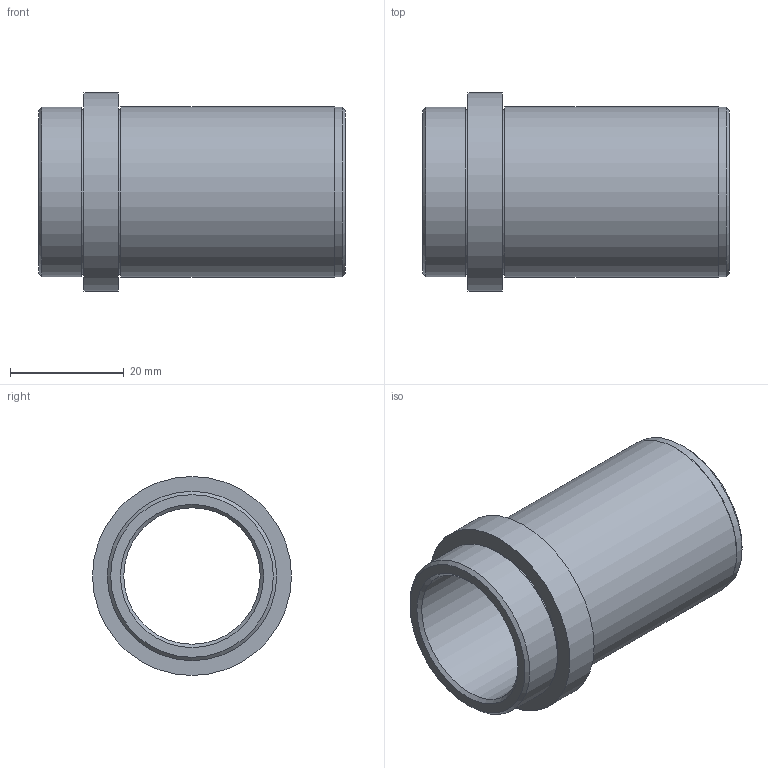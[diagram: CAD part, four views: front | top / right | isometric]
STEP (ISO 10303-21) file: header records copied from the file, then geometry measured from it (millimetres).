
FILE_DESCRIPTION(/* description */ ('Impex Ready, www.impex-ready.pl'),/* implementation_level */ '2;1');
FILE_NAME(/* name */ 'C:\Users\VIKKY\Nextcloud\SM\projekt 10 - części na stronę internetową\Pliki_3D_new\308 Tuleje BG06\308 BG06_STEP\BG06.024046.ipt.step',/* time_stamp */ '2021-12-21T17:34:08+01:00',/* author */ ('SM'),/* organization */ (''),/* preprocessor_version */ 'ST-DEVELOPER v18.1',/* originating_system */ 'Autodesk Inventor 2021',/* authorisation */ '');
FILE_SCHEMA (('AUTOMOTIVE_DESIGN { 1 0 10303 214 3 1 1 }'));
Length unit declared in the file: millimetre
Products named in the file (1): BG06.024046
Bounding box: 54 x 35 x 35 mm (x, y, z)
Volume: 15076.4 mm3; surface area: 10313.2 mm2
Topology: 1 solids, 1 shells, 18 faces, 33 edges, 22 vertices
Faces by surface type: plane 7, cylinder 7, cone 4
Full cylindrical faces by diameter (mm): 24 x1, 29 x2, 29.8 x2, 30 x1, 35 x1
Entity records: 540 total; most frequent: DIRECTION 93, CARTESIAN_POINT 74, ORIENTED_EDGE 66, AXIS2_PLACEMENT_3D 41, EDGE_CURVE 33, EDGE_LOOP 25, CIRCLE 22, VERTEX_POINT 22
